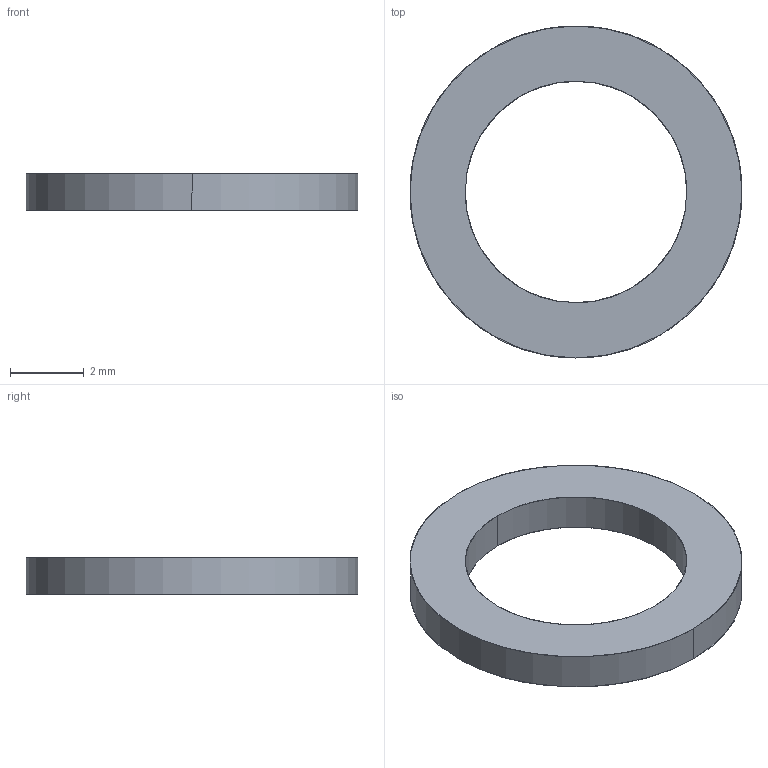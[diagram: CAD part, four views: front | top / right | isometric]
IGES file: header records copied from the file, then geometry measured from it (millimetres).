
Global section: file name: E:\UnigraphicsGraphicData\MISUMI_PRESS-PARTS\IGES\3d_sswa9-1.0_00810_r00.igs; native system: NX V5.0; preprocessor: UGS NX IGES V5.0; author: MISUMI; date: 20110105.163200; units: millimetre
Bounding box: 9 x 9 x 1 mm (x, y, z)
Surface area: 118 mm2 (no closed solid volume)
Topology: 0 solids, 0 shells, 6 faces, 48 edges, 48 vertices
Faces by surface type: bspline 6
